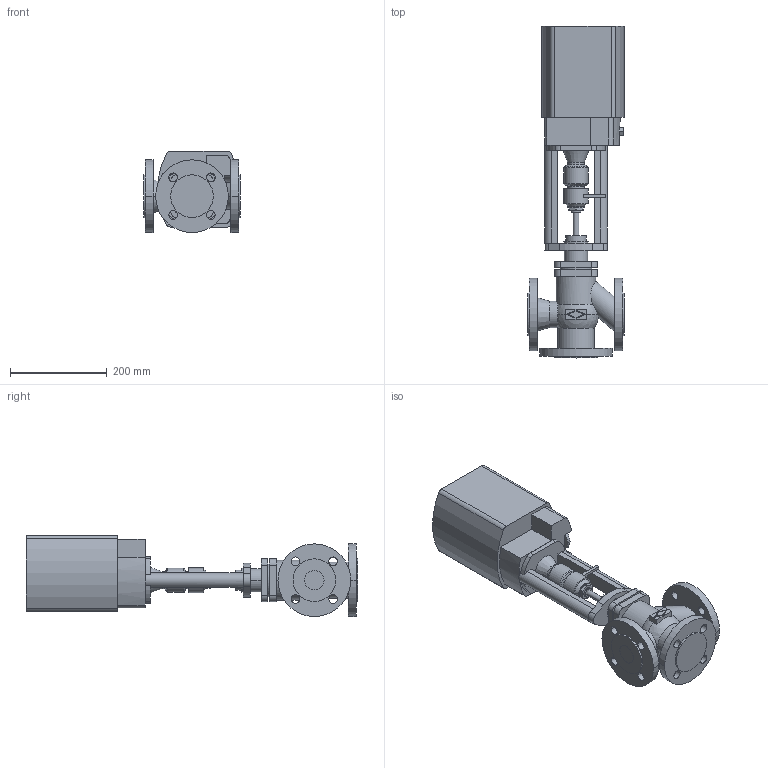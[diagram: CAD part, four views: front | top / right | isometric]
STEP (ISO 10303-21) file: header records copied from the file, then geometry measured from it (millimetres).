
FILE_DESCRIPTION( ( '' ), '1' );
FILE_NAME( 'F:/DE-SHS/TB/OR/04-Sonstiges/daten/files_3d/450-PREMIO-Plus-2G/c000006510.stp', '2017-02-22T12:48:28', ( '' ), ( '' ), ' ', ' ', ' ' );
FILE_SCHEMA( ( 'CONFIG_CONTROL_DESIGN' ) );
Length unit declared in the file: millimetre
Products named in the file (2): 1; 2
Bounding box: 200 x 685 x 167.3 mm (x, y, z)
Volume: 8451439.8 mm3; surface area: 491013.6 mm2
Topology: 2 solids, 2 shells, 247 faces, 638 edges, 422 vertices
Faces by surface type: cylinder 114, plane 112, cone 10, torus 8, sphere 3
Entity records: 8638 total; most frequent: CARTESIAN_POINT 2183, DIRECTION 1426, ORIENTED_EDGE 1276, EDGE_CURVE 638, AXIS2_PLACEMENT_3D 553, VERTEX_POINT 422, LINE 320, VECTOR 320
